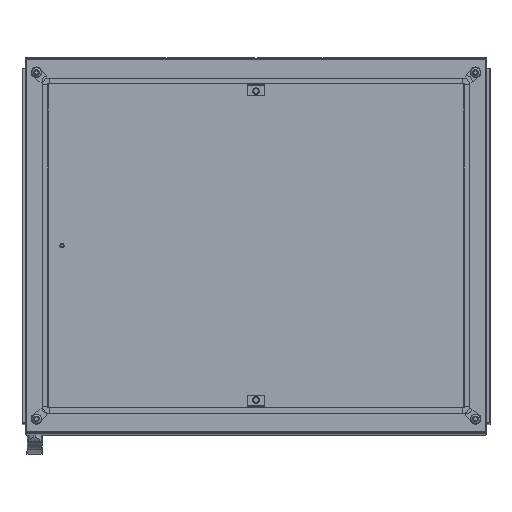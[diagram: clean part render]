
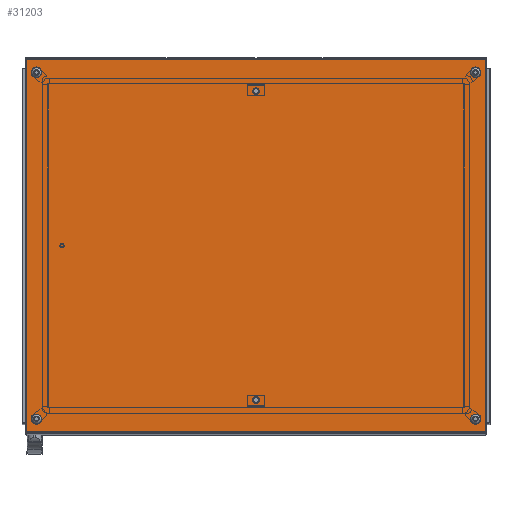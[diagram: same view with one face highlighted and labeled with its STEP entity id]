
A CAD part, top view. The second image highlights one B-rep face of the part: STEP entity #31203.
In plain terms, the highlighted planar face has unit normal (0, 0, 1).
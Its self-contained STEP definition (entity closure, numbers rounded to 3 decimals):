
#1516=CIRCLE('',#33481,7.321);
#1517=CIRCLE('',#33482,7.321);
#1518=CIRCLE('',#33483,6.);
#1519=CIRCLE('',#33484,6.);
#1520=CIRCLE('',#33485,6.);
#1521=CIRCLE('',#33486,6.);
#5555=ORIENTED_EDGE('',*,*,#13129,.F.);
#5556=ORIENTED_EDGE('',*,*,#13130,.F.);
#5557=ORIENTED_EDGE('',*,*,#13131,.F.);
#5558=ORIENTED_EDGE('',*,*,#13132,.F.);
#5559=ORIENTED_EDGE('',*,*,#13133,.F.);
#5560=ORIENTED_EDGE('',*,*,#13134,.F.);
#5561=ORIENTED_EDGE('',*,*,#13118,.T.);
#5562=ORIENTED_EDGE('',*,*,#13126,.T.);
#5563=ORIENTED_EDGE('',*,*,#13089,.F.);
#5564=ORIENTED_EDGE('',*,*,#13135,.F.);
#13089=EDGE_CURVE('',#17111,#17112,#20226,.T.);
#13118=EDGE_CURVE('',#17133,#17132,#20232,.T.);
#13126=EDGE_CURVE('',#17132,#17112,#20237,.T.);
#13129=EDGE_CURVE('',#17134,#17134,#1516,.T.);
#13130=EDGE_CURVE('',#17135,#17135,#1517,.T.);
#13131=EDGE_CURVE('',#17136,#17136,#1518,.T.);
#13132=EDGE_CURVE('',#17137,#17137,#1519,.T.);
#13133=EDGE_CURVE('',#17138,#17138,#1520,.T.);
#13134=EDGE_CURVE('',#17139,#17139,#1521,.T.);
#13135=EDGE_CURVE('',#17133,#17111,#20240,.T.);
#17111=VERTEX_POINT('',#48539);
#17112=VERTEX_POINT('',#48541);
#17132=VERTEX_POINT('',#48615);
#17133=VERTEX_POINT('',#48617);
#17134=VERTEX_POINT('',#48634);
#17135=VERTEX_POINT('',#48636);
#17136=VERTEX_POINT('',#48638);
#17137=VERTEX_POINT('',#48640);
#17138=VERTEX_POINT('',#48642);
#17139=VERTEX_POINT('',#48644);
#20226=LINE('',#48540,#22933);
#20232=LINE('',#48616,#22939);
#20237=LINE('',#48628,#22944);
#20240=LINE('',#48645,#22947);
#22933=VECTOR('',#38821,1000.);
#22939=VECTOR('',#38875,1000.);
#22944=VECTOR('',#38892,1000.);
#22947=VECTOR('',#38911,1000.);
#25310=EDGE_LOOP('',(#5555));
#25311=EDGE_LOOP('',(#5556));
#25312=EDGE_LOOP('',(#5557));
#25313=EDGE_LOOP('',(#5558));
#25314=EDGE_LOOP('',(#5559));
#25315=EDGE_LOOP('',(#5560));
#25316=EDGE_LOOP('',(#5561,#5562,#5563,#5564));
#27908=FACE_BOUND('',#25310,.T.);
#27909=FACE_BOUND('',#25311,.T.);
#27910=FACE_BOUND('',#25312,.T.);
#27911=FACE_BOUND('',#25313,.T.);
#27912=FACE_BOUND('',#25314,.T.);
#27913=FACE_BOUND('',#25315,.T.);
#27914=FACE_BOUND('',#25316,.T.);
#30159=PLANE('',#33480);
#31203=ADVANCED_FACE('',(#27908,#27909,#27910,#27911,#27912,#27913,#27914),
#30159,.T.);
#33480=AXIS2_PLACEMENT_3D('',#48632,#38897,#38898);
#33481=AXIS2_PLACEMENT_3D('',#48633,#38899,#38900);
#33482=AXIS2_PLACEMENT_3D('',#48635,#38901,#38902);
#33483=AXIS2_PLACEMENT_3D('',#48637,#38903,#38904);
#33484=AXIS2_PLACEMENT_3D('',#48639,#38905,#38906);
#33485=AXIS2_PLACEMENT_3D('',#48641,#38907,#38908);
#33486=AXIS2_PLACEMENT_3D('',#48643,#38909,#38910);
#38821=DIRECTION('',(-1.,0.,0.));
#38875=DIRECTION('',(-1.,0.,0.));
#38892=DIRECTION('',(0.,-1.,0.));
#38897=DIRECTION('',(0.,0.,1.));
#38898=DIRECTION('',(1.,0.,0.));
#38899=DIRECTION('',(0.,0.,1.));
#38900=DIRECTION('',(1.,0.,0.));
#38901=DIRECTION('',(0.,0.,1.));
#38902=DIRECTION('',(1.,0.,0.));
#38903=DIRECTION('',(0.,0.,1.));
#38904=DIRECTION('',(1.,0.,0.));
#38905=DIRECTION('',(0.,0.,1.));
#38906=DIRECTION('',(1.,0.,0.));
#38907=DIRECTION('',(0.,0.,1.));
#38908=DIRECTION('',(1.,0.,0.));
#38909=DIRECTION('',(0.,0.,1.));
#38910=DIRECTION('',(1.,0.,0.));
#38911=DIRECTION('',(0.,-1.,0.));
#48539=CARTESIAN_POINT('',(496.5,-402.5,20.));
#48540=CARTESIAN_POINT('',(500.,-402.5,20.));
#48541=CARTESIAN_POINT('',(-496.5,-402.5,20.));
#48615=CARTESIAN_POINT('',(-496.5,402.5,20.));
#48616=CARTESIAN_POINT('',(500.,402.5,20.));
#48617=CARTESIAN_POINT('',(496.5,402.5,20.));
#48628=CARTESIAN_POINT('',(-496.5,405.5,20.));
#48632=CARTESIAN_POINT('',(-496.5,-402.5,20.));
#48633=CARTESIAN_POINT('',(0.,-334.,20.));
#48634=CARTESIAN_POINT('',(7.321,-334.,20.));
#48635=CARTESIAN_POINT('',(0.,334.,20.));
#48636=CARTESIAN_POINT('',(7.321,334.,20.));
#48637=CARTESIAN_POINT('',(474.5,-374.5,20.));
#48638=CARTESIAN_POINT('',(480.5,-374.5,20.));
#48639=CARTESIAN_POINT('',(-474.5,374.5,20.));
#48640=CARTESIAN_POINT('',(-468.5,374.5,20.));
#48641=CARTESIAN_POINT('',(474.5,374.5,20.));
#48642=CARTESIAN_POINT('',(480.5,374.5,20.));
#48643=CARTESIAN_POINT('',(-474.5,-374.5,20.));
#48644=CARTESIAN_POINT('',(-468.5,-374.5,20.));
#48645=CARTESIAN_POINT('',(496.5,405.5,20.));
